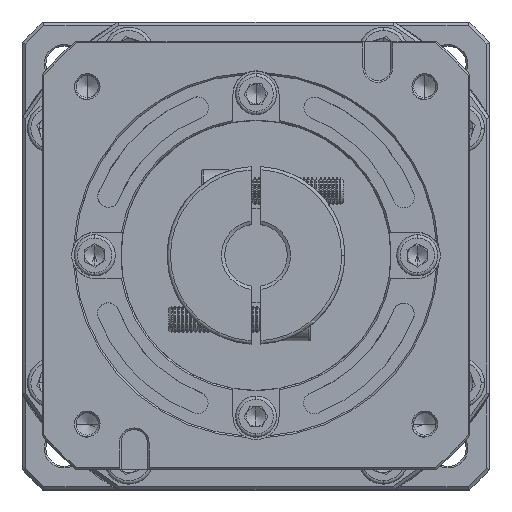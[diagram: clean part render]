
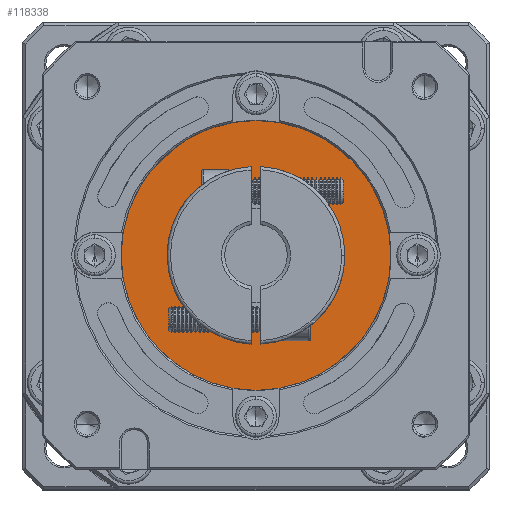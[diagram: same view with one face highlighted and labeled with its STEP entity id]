
A CAD part, top view. The second image highlights one B-rep face of the part: STEP entity #118338.
In plain terms, the highlighted planar face has unit normal (0, 0, 1).
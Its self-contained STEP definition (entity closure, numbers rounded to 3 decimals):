
#5352 = CARTESIAN_POINT ( 'NONE',  ( -117.595, 93.131, -34.634 ) ) ;
#5843 = DIRECTION ( 'NONE',  ( 0., 1., 0. ) ) ;
#6949 = ORIENTED_EDGE ( 'NONE', *, *, #62399, .T. ) ;
#7809 = ORIENTED_EDGE ( 'NONE', *, *, #127249, .T. ) ;
#8832 = AXIS2_PLACEMENT_3D ( 'NONE', #5352, #120487, #5843 ) ;
#11116 = DIRECTION ( 'NONE',  ( 0., 0., -1. ) ) ;
#16285 = DIRECTION ( 'NONE',  ( 0., 1., 0. ) ) ;
#18808 = AXIS2_PLACEMENT_3D ( 'NONE', #112992, #43848, #67001 ) ;
#26812 = CARTESIAN_POINT ( 'NONE',  ( -117.595, 113.131, -34.634 ) ) ;
#28005 = AXIS2_PLACEMENT_3D ( 'NONE', #66527, #11116, #48391 ) ;
#28189 = CARTESIAN_POINT ( 'NONE',  ( -117.595, 93.131, -34.634 ) ) ;
#28914 = DIRECTION ( 'NONE',  ( 0., 0., 1. ) ) ;
#30194 = ORIENTED_EDGE ( 'NONE', *, *, #64851, .T. ) ;
#37977 = FACE_BOUND ( 'NONE', #51081, .T. ) ;
#40995 = EDGE_LOOP ( 'NONE', ( #30194, #7809 ) ) ;
#43848 = DIRECTION ( 'NONE',  ( 0., 0., 1. ) ) ;
#47721 = VERTEX_POINT ( 'NONE', #26812 ) ;
#48342 = CARTESIAN_POINT ( 'NONE',  ( -117.595, 134.131, -34.634 ) ) ;
#48391 = DIRECTION ( 'NONE',  ( 0., 1., 0. ) ) ;
#51081 = EDGE_LOOP ( 'NONE', ( #56649, #6949 ) ) ;
#56649 = ORIENTED_EDGE ( 'NONE', *, *, #141478, .T. ) ;
#58144 = VERTEX_POINT ( 'NONE', #48342 ) ;
#62399 = EDGE_CURVE ( 'NONE', #68799, #47721, #66274, .T. ) ;
#62638 = CARTESIAN_POINT ( 'NONE',  ( -117.595, 93.131, -34.634 ) ) ;
#63628 = PLANE ( 'NONE',  #77576 ) ;
#64851 = EDGE_CURVE ( 'NONE', #58144, #134065, #72743, .T. ) ;
#66274 = CIRCLE ( 'NONE', #28005, 20. ) ;
#66527 = CARTESIAN_POINT ( 'NONE',  ( -117.595, 93.131, -34.634 ) ) ;
#67001 = DIRECTION ( 'NONE',  ( 0., 1., 0. ) ) ;
#68605 = FACE_OUTER_BOUND ( 'NONE', #40995, .T. ) ;
#68799 = VERTEX_POINT ( 'NONE', #118563 ) ;
#71119 = CIRCLE ( 'NONE', #83511, 20. ) ;
#72743 = CIRCLE ( 'NONE', #18808, 41. ) ;
#77576 = AXIS2_PLACEMENT_3D ( 'NONE', #62638, #28914, #16285 ) ;
#83511 = AXIS2_PLACEMENT_3D ( 'NONE', #28189, #85191, #108867 ) ;
#85191 = DIRECTION ( 'NONE',  ( 0., 0., -1. ) ) ;
#106180 = CARTESIAN_POINT ( 'NONE',  ( -117.595, 52.131, -34.634 ) ) ;
#108867 = DIRECTION ( 'NONE',  ( 0., 1., 0. ) ) ;
#112992 = CARTESIAN_POINT ( 'NONE',  ( -117.595, 93.131, -34.634 ) ) ;
#118338 = ADVANCED_FACE ( 'NONE', ( #68605, #37977 ), #63628, .T. ) ;
#118563 = CARTESIAN_POINT ( 'NONE',  ( -117.595, 73.131, -34.634 ) ) ;
#120487 = DIRECTION ( 'NONE',  ( 0., 0., 1. ) ) ;
#127249 = EDGE_CURVE ( 'NONE', #134065, #58144, #148945, .T. ) ;
#134065 = VERTEX_POINT ( 'NONE', #106180 ) ;
#141478 = EDGE_CURVE ( 'NONE', #47721, #68799, #71119, .T. ) ;
#148945 = CIRCLE ( 'NONE', #8832, 41. ) ;
